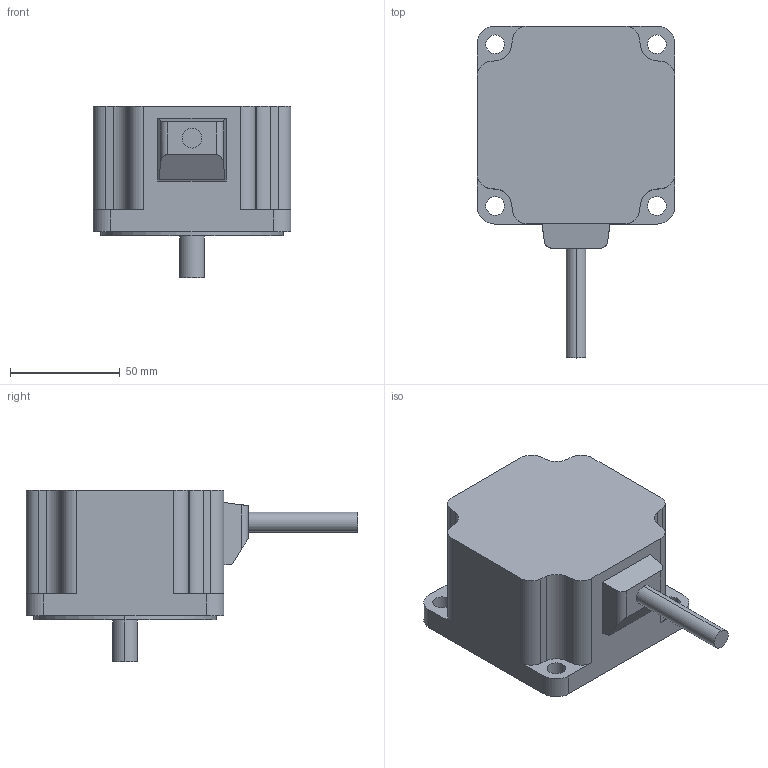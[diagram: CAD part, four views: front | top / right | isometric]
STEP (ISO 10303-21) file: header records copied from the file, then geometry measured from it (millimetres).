
FILE_DESCRIPTION (( 'STEP AP203' ), '1' );
FILE_NAME ('A1888-GE.step', '2024-04-24T07:05:46', ( '' ), ( '' ), 'SwSTEP 2.0', 'SolidWorks 2023', '' );
FILE_SCHEMA (( 'CONFIG_CONTROL_DESIGN' ));
Length unit declared in the file: millimetre
Products named in the file (1): A1888-GE
Bounding box: 90 x 151 x 78 mm (x, y, z)
Volume: 433553.8 mm3; surface area: 38746.5 mm2
Topology: 1 solids, 1 shells, 59 faces, 159 edges, 106 vertices
Faces by surface type: cylinder 32, plane 27
Entity records: 1966 total; most frequent: CARTESIAN_POINT 337, DIRECTION 335, ORIENTED_EDGE 318, EDGE_CURVE 159, AXIS2_PLACEMENT_3D 120, VERTEX_POINT 106, LINE 95, VECTOR 95
